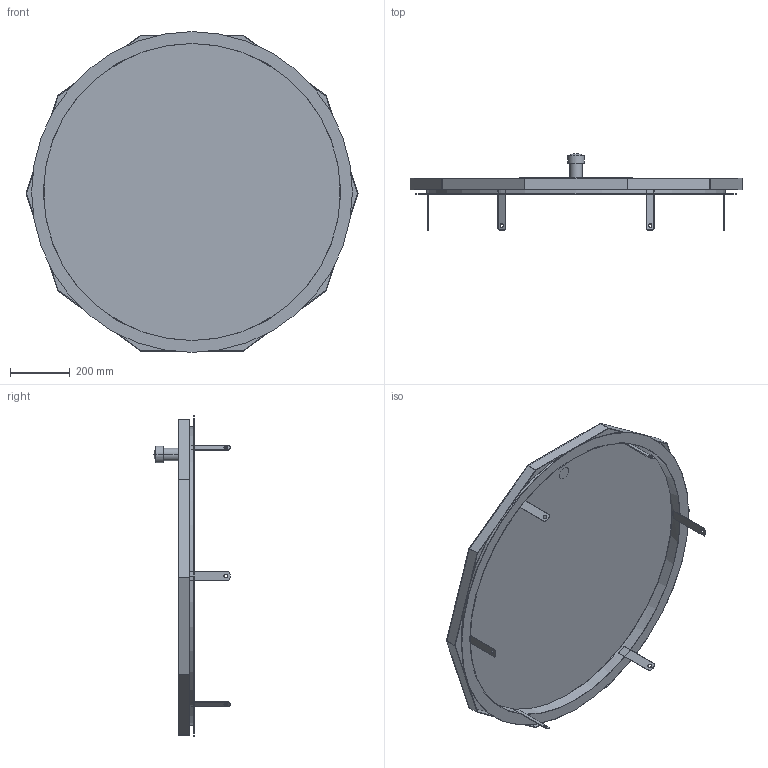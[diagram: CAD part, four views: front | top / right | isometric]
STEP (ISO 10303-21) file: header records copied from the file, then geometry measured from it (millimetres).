
FILE_DESCRIPTION((''),'2;1');
FILE_NAME('017_000107','2018-09-06T',('set'),('HUBER SE'),'PRO/ENGINEER BY PARAMETRIC TECHNOLOGY CORPORATION, 2017170','PRO/ENGINEER BY PARAMETRIC TECHNOLOGY CORPORATION, 2017170','');
FILE_SCHEMA(('AUTOMOTIVE_DESIGN { 1 0 10303 214 1 1 1 1 }'));
Length unit declared in the file: millimetre
Products named in the file (1): 017_000107
Bounding box: 1112.45 x 256 x 1075 mm (x, y, z)
Volume: 2760509 mm3; surface area: 2649174.4 mm2
Topology: 2 solids, 2 shells, 87 faces, 238 edges, 157 vertices
Faces by surface type: plane 57, cylinder 28, sphere 2
Entity records: 3381 total; most frequent: DIRECTION 493, CARTESIAN_POINT 491, ORIENTED_EDGE 472, EDGE_CURVE 236, VECTOR 166, LINE 166, AXIS2_PLACEMENT_3D 162, VERTEX_POINT 157
